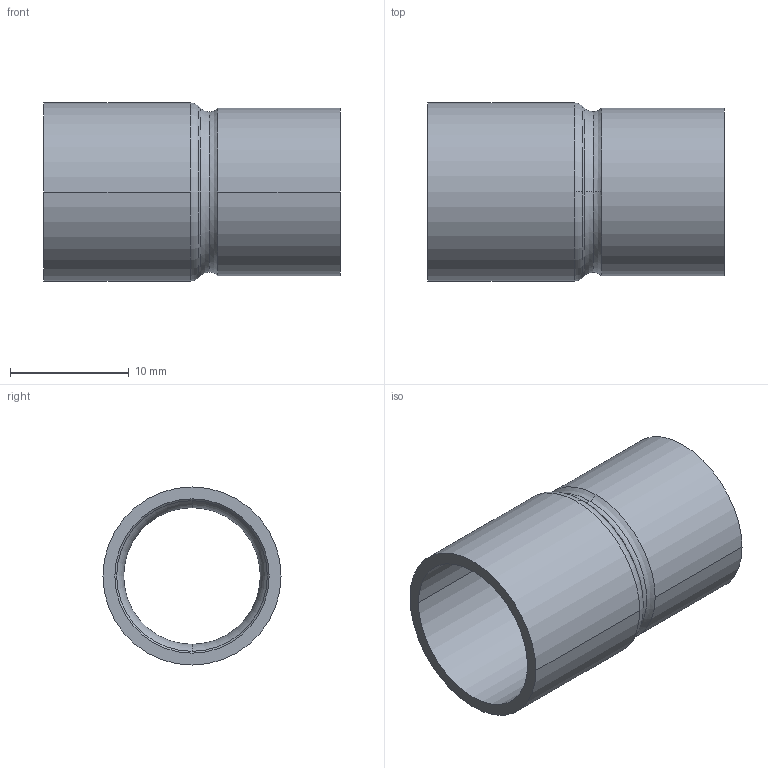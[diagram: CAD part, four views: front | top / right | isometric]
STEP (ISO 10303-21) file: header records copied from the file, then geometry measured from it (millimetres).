
FILE_DESCRIPTION((''),'2;1');
FILE_NAME('G:\Technics\CAD\Bauteile\Serie 15243\152431512.stp','2005-10-21T12:49:31',('boden'),(''),'Autodesk Inventor 8','Autodesk Inventor 8','');
FILE_SCHEMA(('AUTOMOTIVE_DESIGN { 1 0 10303 214 1 1 1 1 }'));
Length unit declared in the file: millimetre
Products named in the file (1): 152431512
Bounding box: 25 x 15 x 15 mm (x, y, z)
Volume: 1075.1 mm3; surface area: 2235.7 mm2
Topology: 1 solids, 1 shells, 24 faces, 60 edges, 38 vertices
Faces by surface type: cylinder 8, torus 6, bspline 4, cone 4, plane 2
Entity records: 931 total; most frequent: CARTESIAN_POINT 299, DIRECTION 150, ORIENTED_EDGE 120, AXIS2_PLACEMENT_3D 69, EDGE_CURVE 60, CIRCLE 48, VERTEX_POINT 38, EDGE_LOOP 26
